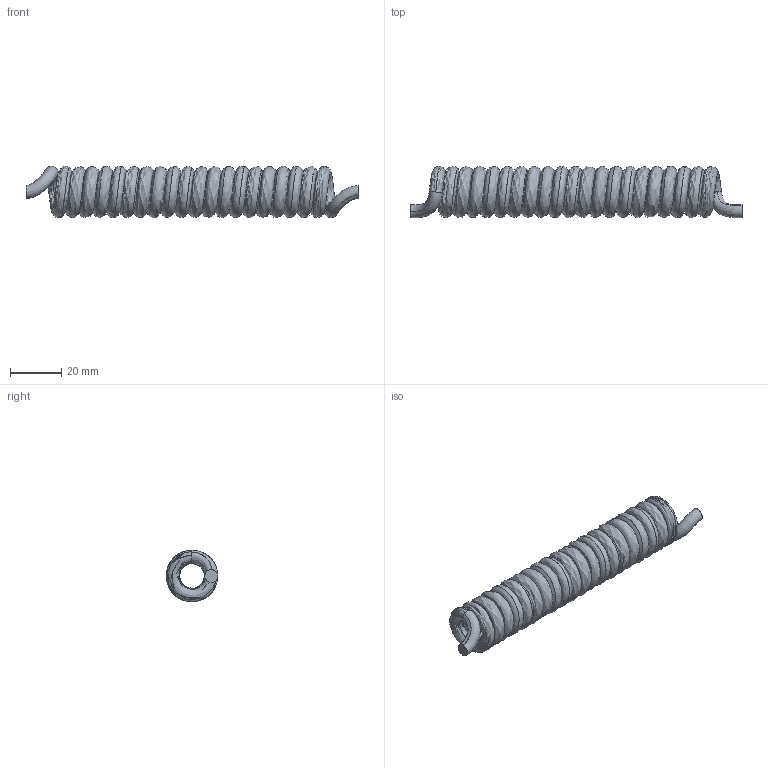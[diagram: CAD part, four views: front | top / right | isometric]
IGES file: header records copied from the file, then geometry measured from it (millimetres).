
Start section:  PTC IGES file: 0964592.igs
Global section: file name: 0964592.igs; native system: Creo Parametric by PTC Inc.; preprocessor: 2020454; author: ti; organization: Unknown; date: 20210818.154634; units: millimetre
Bounding box: 129.15 x 20 x 20 mm (x, y, z)
Surface area: 15837.9 mm2 (no closed solid volume)
Topology: 0 solids, 0 shells, 8 faces, 36 edges, 36 vertices
Faces by surface type: bspline 8
